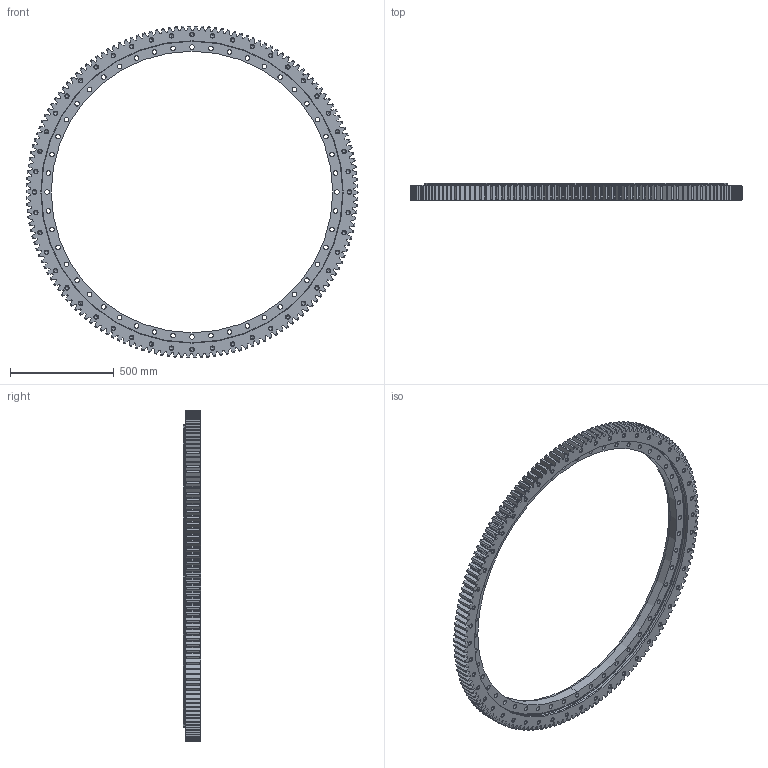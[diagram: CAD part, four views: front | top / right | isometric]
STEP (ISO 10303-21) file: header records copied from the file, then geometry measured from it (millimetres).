
FILE_DESCRIPTION (( 'STEP AP203' ), '1' );
FILE_NAME ('B2125-2-1598CA.STEP', '2025-09-29T14:05:47', ( '' ), ( '' ), 'SwSTEP 2.0', 'SolidWorks 2020', '' );
FILE_SCHEMA (( 'CONFIG_CONTROL_DESIGN' ));
Length unit declared in the file: millimetre
Products named in the file (1): B2125-2-1598CA
Bounding box: 1598 x 82 x 1597.91 mm (x, y, z)
Volume: 31158332.9 mm3; surface area: 2946155.8 mm2
Topology: 2 solids, 2 shells, 1526 faces, 4348 edges, 2784 vertices
Faces by surface type: cone 512, cylinder 372, plane 326, bspline 316
Entity records: 50355 total; most frequent: CARTESIAN_POINT 13303, ORIENTED_EDGE 8504, DIRECTION 6566, EDGE_CURVE 4252, VERTEX_POINT 2784, AXIS2_PLACEMENT_3D 2367, LINE 1832, VECTOR 1832
